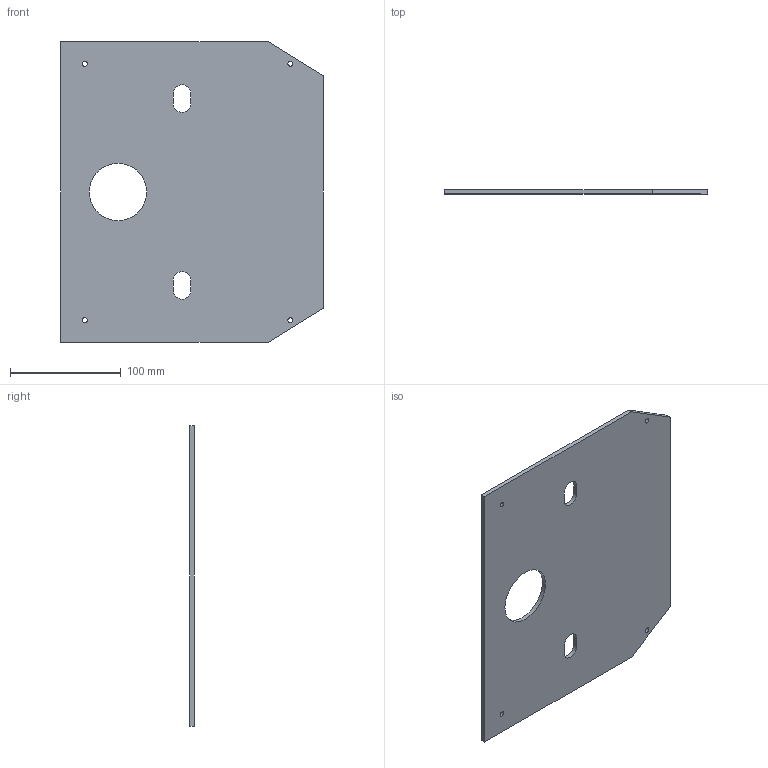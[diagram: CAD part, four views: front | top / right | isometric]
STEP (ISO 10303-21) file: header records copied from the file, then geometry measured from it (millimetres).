
FILE_DESCRIPTION(('Open CASCADE Model'),'2;1');
FILE_NAME('Open CASCADE Shape Model','2026-09-21T10:12:06',('Author'),( 'Open CASCADE'),'Open CASCADE STEP processor 7.8','Open CASCADE 7.8' ,'Unknown');
FILE_SCHEMA(('AUTOMOTIVE_DESIGN { 1 0 10303 214 1 1 1 1 }'));
Length unit declared in the file: millimetre
Products named in the file (1): Open CASCADE STEP translator 7.8 3
Bounding box: 238 x 4 x 272 mm (x, y, z)
Volume: 241245.4 mm3; surface area: 125946.1 mm2
Topology: 1 solids, 1 shells, 23 faces, 63 edges, 42 vertices
Faces by surface type: plane 12, cylinder 11
Full cylindrical faces by diameter (mm): 4.4 x4, 52 x1
Entity records: 1646 total; most frequent: CARTESIAN_POINT 403, DIRECTION 221, LINE 129, VECTOR 129, ORIENTED_EDGE 126, PCURVE 126, DEFINITIONAL_REPRESENTATION 126, EDGE_CURVE 63
